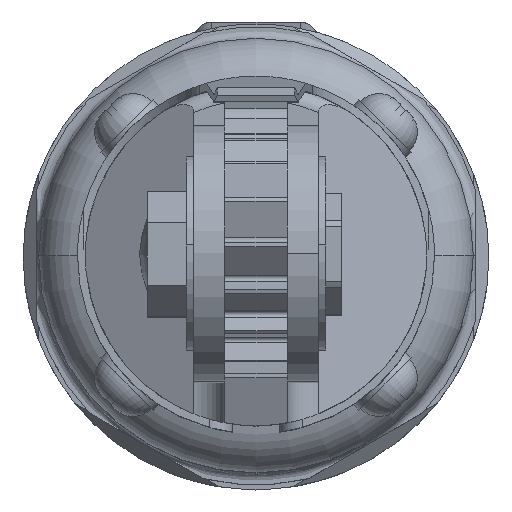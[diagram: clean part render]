
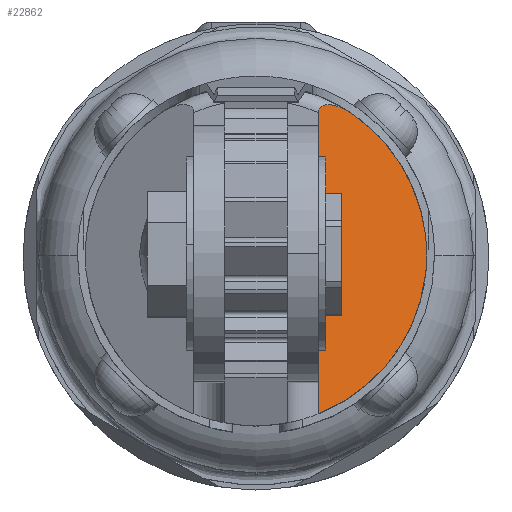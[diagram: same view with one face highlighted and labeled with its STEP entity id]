
A CAD part, top view. The second image highlights one B-rep face of the part: STEP entity #22862.
In plain terms, the highlighted planar face has unit normal (0.447, 0, 0.894).
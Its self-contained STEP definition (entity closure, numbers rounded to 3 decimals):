
#4644 = CARTESIAN_POINT ( 'NONE',  ( 21.876, 2.335, -102.938 ) ) ;
#4646 = CARTESIAN_POINT ( 'NONE',  ( 21.959, 1.559, -102.979 ) ) ;
#4648 = CARTESIAN_POINT ( 'NONE',  ( 22., 0.78, -103. ) ) ;
#4650 = CARTESIAN_POINT ( 'NONE',  ( 22., 0., -103. ) ) ;
#4654 =( BOUNDED_CURVE ( )  B_SPLINE_CURVE ( 3, ( #4650, #4648, #4646, #4644 ),
 .UNSPECIFIED., .F., .T. ) 
 B_SPLINE_CURVE_WITH_KNOTS ( ( 4, 4 ),
 ( 3.142, 3.248 ),
 .UNSPECIFIED. ) 
 CURVE ( )  GEOMETRIC_REPRESENTATION_ITEM ( )  RATIONAL_B_SPLINE_CURVE ( ( 1., 0.999, 0.999, 1. ) ) 
 REPRESENTATION_ITEM ( '' )  );
#4658 = CARTESIAN_POINT ( 'NONE',  ( 21.876, 2.335, -102.938 ) ) ;
#4659 = CARTESIAN_POINT ( 'NONE',  ( 22., 0., -103. ) ) ;
#8111 = CARTESIAN_POINT ( 'NONE',  ( 22., 0., -103. ) ) ;
#8112 = CARTESIAN_POINT ( 'NONE',  ( 22., -0.751, -103. ) ) ;
#8113 = CARTESIAN_POINT ( 'NONE',  ( 21.962, -1.501, -102.981 ) ) ;
#8114 = CARTESIAN_POINT ( 'NONE',  ( 21.885, -2.248, -102.942 ) ) ;
#8127 =( BOUNDED_CURVE ( )  B_SPLINE_CURVE ( 3, ( #8114, #8113, #8112, #8111 ),
 .UNSPECIFIED., .F., .F. ) 
 B_SPLINE_CURVE_WITH_KNOTS ( ( 4, 4 ),
 ( 3.039, 3.142 ),
 .UNSPECIFIED. ) 
 CURVE ( )  GEOMETRIC_REPRESENTATION_ITEM ( )  RATIONAL_B_SPLINE_CURVE ( ( 1., 0.999, 0.999, 1. ) ) 
 REPRESENTATION_ITEM ( '' )  );
#8270 = CARTESIAN_POINT ( 'NONE',  ( 21.885, -2.248, -102.942 ) ) ;
#8426 = CARTESIAN_POINT ( 'NONE',  ( 21.885, -2.248, -102.942 ) ) ;
#8428 = CARTESIAN_POINT ( 'NONE',  ( 21.019, -10.674, -102.51 ) ) ;
#8430 = CARTESIAN_POINT ( 'NONE',  ( 15.89, -17.414, -99.945 ) ) ;
#8433 = CARTESIAN_POINT ( 'NONE',  ( 8., -20.494, -96. ) ) ;
#8438 = CARTESIAN_POINT ( 'NONE',  ( 8., -20.494, -96. ) ) ;
#8442 =( BOUNDED_CURVE ( )  B_SPLINE_CURVE ( 3, ( #8433, #8430, #8428, #8426 ),
 .UNSPECIFIED., .F., .F. ) 
 B_SPLINE_CURVE_WITH_KNOTS ( ( 4, 4 ),
 ( 1.943, 3.039 ),
 .UNSPECIFIED. ) 
 CURVE ( )  GEOMETRIC_REPRESENTATION_ITEM ( )  RATIONAL_B_SPLINE_CURVE ( ( 1., 0.902, 0.902, 1. ) ) 
 REPRESENTATION_ITEM ( '' )  );
#9016 = CARTESIAN_POINT ( 'NONE',  ( 8., 11., -96. ) ) ;
#9363 = CARTESIAN_POINT ( 'NONE',  ( 8., 18.33, -96. ) ) ;
#9364 = DIRECTION ( 'NONE',  ( 0., -1., 0. ) ) ;
#9365 = VECTOR ( 'NONE', #9364, 1000. ) ;
#9367 = CARTESIAN_POINT ( 'NONE',  ( 8., 0., -96. ) ) ;
#9368 = LINE ( 'NONE', #9367, #9365 ) ;
#11268 = AXIS2_PLACEMENT_3D ( 'NONE', #11381, #11380, #11379 ) ;
#11272 = FACE_OUTER_BOUND ( 'NONE', #22863, .T. ) ;
#11277 = PLANE ( 'NONE',  #11268 ) ;
#11287 = CARTESIAN_POINT ( 'NONE',  ( 8., 18.33, -96. ) ) ;
#11288 = CARTESIAN_POINT ( 'NONE',  ( 8., 18.44, -96. ) ) ;
#11289 = CARTESIAN_POINT ( 'NONE',  ( 8.015, 18.549, -96.008 ) ) ;
#11290 = CARTESIAN_POINT ( 'NONE',  ( 8.084, 18.754, -96.042 ) ) ;
#11291 = CARTESIAN_POINT ( 'NONE',  ( 8.137, 18.848, -96.068 ) ) ;
#11293 = CARTESIAN_POINT ( 'NONE',  ( 8.269, 19.008, -96.134 ) ) ;
#11294 = CARTESIAN_POINT ( 'NONE',  ( 8.346, 19.073, -96.173 ) ) ;
#11295 = CARTESIAN_POINT ( 'NONE',  ( 8.516, 19.182, -96.258 ) ) ;
#11296 = CARTESIAN_POINT ( 'NONE',  ( 8.606, 19.223, -96.303 ) ) ;
#11297 = CARTESIAN_POINT ( 'NONE',  ( 8.886, 19.321, -96.443 ) ) ;
#11299 = CARTESIAN_POINT ( 'NONE',  ( 9.076, 19.349, -96.538 ) ) ;
#11300 = CARTESIAN_POINT ( 'NONE',  ( 9.459, 19.364, -96.73 ) ) ;
#11301 = CARTESIAN_POINT ( 'NONE',  ( 9.654, 19.35, -96.827 ) ) ;
#11303 = CARTESIAN_POINT ( 'NONE',  ( 10.228, 19.264, -97.114 ) ) ;
#11304 = CARTESIAN_POINT ( 'NONE',  ( 10.604, 19.147, -97.302 ) ) ;
#11305 = CARTESIAN_POINT ( 'NONE',  ( 11.321, 18.844, -97.66 ) ) ;
#11306 = CARTESIAN_POINT ( 'NONE',  ( 11.666, 18.656, -97.833 ) ) ;
#11307 = CARTESIAN_POINT ( 'NONE',  ( 12., 18.439, -98. ) ) ;
#11312 = DIRECTION ( 'NONE',  ( 0., -1., 0. ) ) ;
#11314 = VECTOR ( 'NONE', #11312, 1000. ) ;
#11316 = CARTESIAN_POINT ( 'NONE',  ( 8., 0., -96. ) ) ;
#11318 = LINE ( 'NONE', #11316, #11314 ) ;
#11322 = B_SPLINE_CURVE_WITH_KNOTS ( 'NONE', 3,
 ( #11307, #11306, #11305, #11304, #11303, #11301, #11300, #11299, #11297, #11296, #11295, #11294, #11293, #11291, #11290, #11289, #11288, #11287 ),
 .UNSPECIFIED., .F., .F.,
 ( 4, 2, 2, 2, 2, 2, 2, 2, 4 ),
 ( 0., 0.001, 0.003, 0.003, 0.004, 0.004, 0.004, 0.005, 0.005 ),
 .UNSPECIFIED. ) ;
#11379 = DIRECTION ( 'NONE',  ( -0.894, 0., 0.447 ) ) ;
#11380 = DIRECTION ( 'NONE',  ( -0.447, 0., -0.894 ) ) ;
#11381 = CARTESIAN_POINT ( 'NONE',  ( 4., -22., -94. ) ) ;
#11578 = CARTESIAN_POINT ( 'NONE',  ( 12., 18.439, -98. ) ) ;
#11580 = CARTESIAN_POINT ( 'NONE',  ( 17.642, 14.767, -100.821 ) ) ;
#11581 = CARTESIAN_POINT ( 'NONE',  ( 21.161, 9.029, -102.581 ) ) ;
#11584 = CARTESIAN_POINT ( 'NONE',  ( 21.876, 2.335, -102.938 ) ) ;
#11591 =( BOUNDED_CURVE ( )  B_SPLINE_CURVE ( 3, ( #11584, #11581, #11580, #11578 ),
 .UNSPECIFIED., .F., .T. ) 
 B_SPLINE_CURVE_WITH_KNOTS ( ( 4, 4 ),
 ( 3.248, 4.135 ),
 .UNSPECIFIED. ) 
 CURVE ( )  GEOMETRIC_REPRESENTATION_ITEM ( )  RATIONAL_B_SPLINE_CURVE ( ( 1., 0.935, 0.935, 1. ) ) 
 REPRESENTATION_ITEM ( '' )  );
#11595 = CARTESIAN_POINT ( 'NONE',  ( 12., 18.439, -98. ) ) ;
#21505 = EDGE_CURVE ( 'NONE', #21506, #21507, #4654, .T. ) ;
#21506 = VERTEX_POINT ( 'NONE', #4659 ) ;
#21507 = VERTEX_POINT ( 'NONE', #4658 ) ;
#22141 = EDGE_CURVE ( 'NONE', #22166, #21506, #8127, .T. ) ;
#22166 = VERTEX_POINT ( 'NONE', #8270 ) ;
#22224 = EDGE_CURVE ( 'NONE', #22226, #22166, #8442, .T. ) ;
#22226 = VERTEX_POINT ( 'NONE', #8438 ) ;
#22364 = VERTEX_POINT ( 'NONE', #9016 ) ;
#22440 = EDGE_CURVE ( 'NONE', #22442, #22364, #9368, .T. ) ;
#22442 = VERTEX_POINT ( 'NONE', #9363 ) ;
#22846 = EDGE_CURVE ( 'NONE', #22923, #22442, #11322, .T. ) ;
#22847 = ORIENTED_EDGE ( 'NONE', *, *, #22440, .T. ) ;
#22848 = ORIENTED_EDGE ( 'NONE', *, *, #22849, .T. ) ;
#22849 = EDGE_CURVE ( 'NONE', #22364, #22226, #11318, .T. ) ;
#22862 = ADVANCED_FACE ( 'NONE', ( #11272 ), #11277, .F. ) ;
#22863 = EDGE_LOOP ( 'NONE', ( #22864, #22865, #22920, #22921, #22924, #22847, #22848 ) ) ;
#22864 = ORIENTED_EDGE ( 'NONE', *, *, #22224, .T. ) ;
#22865 = ORIENTED_EDGE ( 'NONE', *, *, #22141, .T. ) ;
#22920 = ORIENTED_EDGE ( 'NONE', *, *, #21505, .T. ) ;
#22921 = ORIENTED_EDGE ( 'NONE', *, *, #22922, .T. ) ;
#22922 = EDGE_CURVE ( 'NONE', #21507, #22923, #11591, .T. ) ;
#22923 = VERTEX_POINT ( 'NONE', #11595 ) ;
#22924 = ORIENTED_EDGE ( 'NONE', *, *, #22846, .T. ) ;
